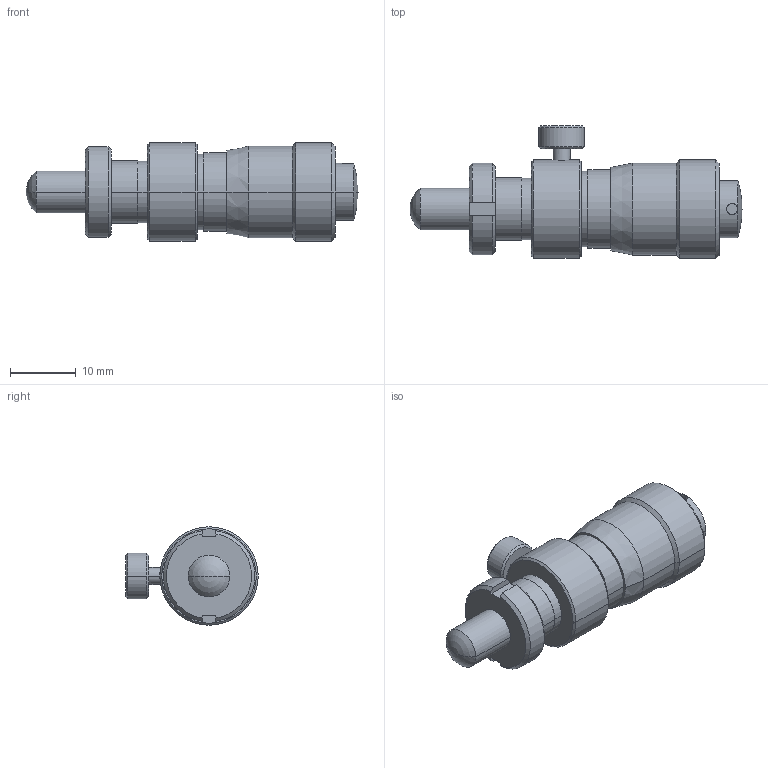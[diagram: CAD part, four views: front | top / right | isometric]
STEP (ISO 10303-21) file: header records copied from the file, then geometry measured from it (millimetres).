
FILE_DESCRIPTION(('Creo Elements/Direct Modeling STEP Export'),'2;1');
FILE_NAME('148-319_MHC4-6.5CLC.stp','2014-11-19T15:03:01',(''),(''),'Creo Elements/Direct Modeling STEP processor for AP214 (Solid Model)','Creo Elements/Direct Modeling 18.1B 29-Sep-2012 (C) Parametric Technology GmbH','');
FILE_SCHEMA(('AUTOMOTIVE_DESIGN { 1 0 10303 214 1 1 1 1 }'));
Length unit declared in the file: millimetre
Products named in the file (2): 148-319_MHC4-6_5CLC.prt; 148-319_MHC4-6_5CLC.stp
Assembly tree (1 placements, depth 2):
  148-319_MHC4-6_5CLC.stp
    148-319_MHC4-6_5CLC.prt
Bounding box: 50.6 x 20.2 x 15 mm (x, y, z)
Volume: 6035.5 mm3; surface area: 2581 mm2
Topology: 1 solids, 1 shells, 65 faces, 145 edges, 87 vertices
Faces by surface type: cylinder 26, cone 18, plane 17, sphere 4
Entity records: 1754 total; most frequent: CARTESIAN_POINT 371, ORIENTED_EDGE 282, DIRECTION 272, EDGE_CURVE 141, AXIS2_PLACEMENT_3D 107, VERTEX_POINT 87, EDGE_LOOP 74, FACE_OUTER_BOUND 65
